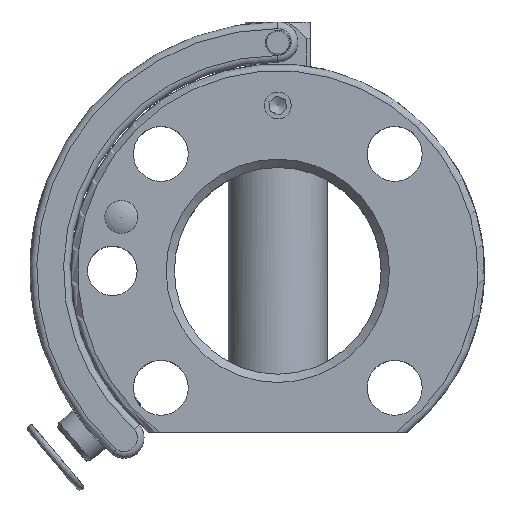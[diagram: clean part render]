
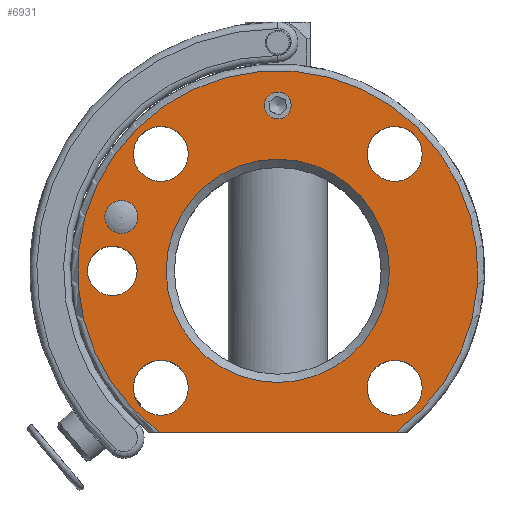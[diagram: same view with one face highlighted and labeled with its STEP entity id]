
A CAD part, top view. The second image highlights one B-rep face of the part: STEP entity #6931.
In plain terms, the highlighted planar face has unit normal (0, 0, 1).
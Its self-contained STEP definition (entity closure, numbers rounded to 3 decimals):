
#462=FACE_BOUND('',#1250,.T.);
#463=FACE_BOUND('',#1251,.T.);
#464=FACE_BOUND('',#1252,.T.);
#465=FACE_BOUND('',#1253,.T.);
#466=FACE_BOUND('',#1254,.T.);
#467=FACE_BOUND('',#1255,.T.);
#468=FACE_BOUND('',#1256,.T.);
#469=FACE_BOUND('',#1257,.T.);
#536=PLANE('',#7444);
#841=FACE_OUTER_BOUND('',#1249,.T.);
#1249=EDGE_LOOP('',(#4886,#4887));
#1250=EDGE_LOOP('',(#4888));
#1251=EDGE_LOOP('',(#4889));
#1252=EDGE_LOOP('',(#4890));
#1253=EDGE_LOOP('',(#4891));
#1254=EDGE_LOOP('',(#4892));
#1255=EDGE_LOOP('',(#4893));
#1256=EDGE_LOOP('',(#4894));
#1257=EDGE_LOOP('',(#4895));
#1702=LINE('',#10258,#2202);
#2202=VECTOR('',#8199,10.);
#2649=CIRCLE('',#7316,1.621);
#2651=CIRCLE('',#7319,3.);
#2661=CIRCLE('',#7334,3.324);
#2663=CIRCLE('',#7337,3.324);
#2667=CIRCLE('',#7343,3.324);
#2674=CIRCLE('',#7353,3.324);
#2694=CIRCLE('',#7393,2.);
#2721=CIRCLE('',#7445,24.2);
#2722=CIRCLE('',#7446,13.5);
#2864=VERTEX_POINT('',#9448);
#2866=VERTEX_POINT('',#9454);
#2885=VERTEX_POINT('',#9601);
#2887=VERTEX_POINT('',#9607);
#2893=VERTEX_POINT('',#9622);
#2903=VERTEX_POINT('',#9647);
#2934=VERTEX_POINT('',#9807);
#2992=VERTEX_POINT('',#10255);
#2993=VERTEX_POINT('',#10256);
#2994=VERTEX_POINT('',#10259);
#3563=EDGE_CURVE('',#2864,#2864,#2649,.T.);
#3566=EDGE_CURVE('',#2866,#2866,#2651,.T.);
#3589=EDGE_CURVE('',#2885,#2885,#2661,.T.);
#3592=EDGE_CURVE('',#2887,#2887,#2663,.T.);
#3599=EDGE_CURVE('',#2893,#2893,#2667,.T.);
#3611=EDGE_CURVE('',#2903,#2903,#2674,.T.);
#3663=EDGE_CURVE('',#2934,#2934,#2694,.T.);
#3738=EDGE_CURVE('',#2992,#2993,#2721,.T.);
#3739=EDGE_CURVE('',#2992,#2993,#1702,.T.);
#3740=EDGE_CURVE('',#2994,#2994,#2722,.T.);
#4886=ORIENTED_EDGE('',*,*,#3738,.F.);
#4887=ORIENTED_EDGE('',*,*,#3739,.T.);
#4888=ORIENTED_EDGE('',*,*,#3563,.T.);
#4889=ORIENTED_EDGE('',*,*,#3566,.T.);
#4890=ORIENTED_EDGE('',*,*,#3589,.T.);
#4891=ORIENTED_EDGE('',*,*,#3592,.T.);
#4892=ORIENTED_EDGE('',*,*,#3599,.T.);
#4893=ORIENTED_EDGE('',*,*,#3611,.T.);
#4894=ORIENTED_EDGE('',*,*,#3663,.T.);
#4895=ORIENTED_EDGE('',*,*,#3740,.F.);
#6931=ADVANCED_FACE('',(#841,#462,#463,#464,#465,#466,#467,#468,#469),#536,
 .T.);
#7316=AXIS2_PLACEMENT_3D('',#9449,#7875,#7876);
#7319=AXIS2_PLACEMENT_3D('',#9455,#7882,#7883);
#7334=AXIS2_PLACEMENT_3D('',#9603,#7917,#7918);
#7337=AXIS2_PLACEMENT_3D('',#9609,#7924,#7925);
#7343=AXIS2_PLACEMENT_3D('',#9624,#7939,#7940);
#7353=AXIS2_PLACEMENT_3D('',#9649,#7964,#7965);
#7393=AXIS2_PLACEMENT_3D('',#9808,#8072,#8073);
#7444=AXIS2_PLACEMENT_3D('',#10254,#8195,#8196);
#7445=AXIS2_PLACEMENT_3D('',#10257,#8197,#8198);
#7446=AXIS2_PLACEMENT_3D('',#10260,#8200,#8201);
#7875=DIRECTION('center_axis',(0.,0.,-1.));
#7876=DIRECTION('ref_axis',(1.,0.,0.));
#7882=DIRECTION('center_axis',(0.,0.,-1.));
#7883=DIRECTION('ref_axis',(1.,0.,0.));
#7917=DIRECTION('center_axis',(0.,0.,-1.));
#7918=DIRECTION('ref_axis',(-1.,0.,0.));
#7924=DIRECTION('center_axis',(0.,0.,-1.));
#7925=DIRECTION('ref_axis',(-1.,0.,0.));
#7939=DIRECTION('center_axis',(0.,0.,-1.));
#7940=DIRECTION('ref_axis',(-1.,0.,0.));
#7964=DIRECTION('center_axis',(0.,0.,-1.));
#7965=DIRECTION('ref_axis',(-1.,0.,0.));
#8072=DIRECTION('center_axis',(0.,0.,-1.));
#8073=DIRECTION('ref_axis',(1.,0.,0.));
#8195=DIRECTION('center_axis',(0.,0.,1.));
#8196=DIRECTION('ref_axis',(1.,0.,0.));
#8197=DIRECTION('center_axis',(0.,0.,-1.));
#8198=DIRECTION('ref_axis',(0.,1.,0.));
#8199=DIRECTION('',(1.,0.,0.));
#8200=DIRECTION('center_axis',(0.,0.,1.));
#8201=DIRECTION('ref_axis',(-1.,0.,0.));
#9448=CARTESIAN_POINT('',(-1.621,20.,0.));
#9449=CARTESIAN_POINT('Origin',(0.,20.,0.));
#9454=CARTESIAN_POINT('',(-23.,0.,0.));
#9455=CARTESIAN_POINT('Origin',(-20.,0.,0.));
#9601=CARTESIAN_POINT('',(-10.819,-14.142,0.));
#9603=CARTESIAN_POINT('Origin',(-14.142,-14.142,0.));
#9607=CARTESIAN_POINT('',(17.466,14.142,0.));
#9609=CARTESIAN_POINT('Origin',(14.142,14.142,0.));
#9622=CARTESIAN_POINT('',(-10.819,14.142,0.));
#9624=CARTESIAN_POINT('Origin',(-14.142,14.142,0.));
#9647=CARTESIAN_POINT('',(17.466,-14.142,0.));
#9649=CARTESIAN_POINT('Origin',(14.142,-14.142,0.));
#9807=CARTESIAN_POINT('',(-20.91,6.511,0.));
#9808=CARTESIAN_POINT('Origin',(-18.91,6.511,0.));
#10254=CARTESIAN_POINT('Origin',(0.,0.,0.));
#10255=CARTESIAN_POINT('',(-14.331,-19.5,0.));
#10256=CARTESIAN_POINT('',(14.331,-19.5,0.));
#10257=CARTESIAN_POINT('Origin',(0.,0.,0.));
#10258=CARTESIAN_POINT('',(-7.822,-19.5,0.));
#10259=CARTESIAN_POINT('',(13.5,0.,0.));
#10260=CARTESIAN_POINT('Origin',(0.,0.,0.));
